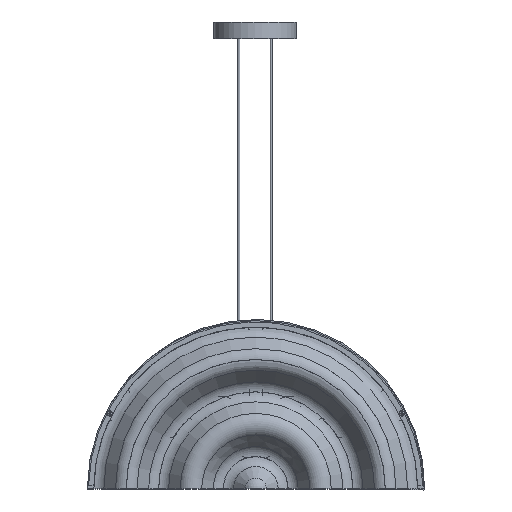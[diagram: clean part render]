
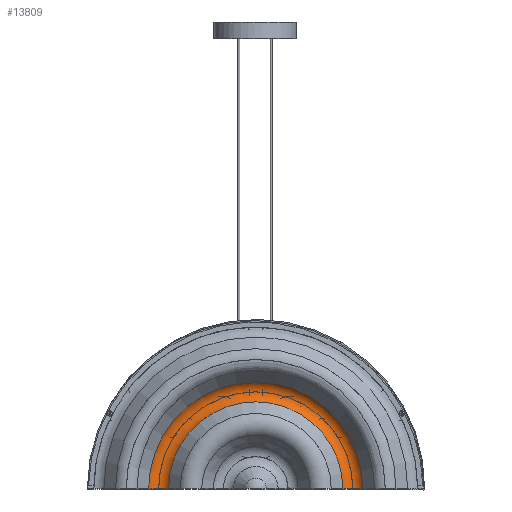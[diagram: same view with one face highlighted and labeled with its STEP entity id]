
A CAD part, top view. The second image highlights one B-rep face of the part: STEP entity #13809.
In plain terms, the highlighted toroidal (fillet/blend) face has major radius 150 mm and minor radius 19.277 mm.
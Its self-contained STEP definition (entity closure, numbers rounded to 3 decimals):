
#579=TOROIDAL_SURFACE('',#15373,150.,19.277);
#1716=FACE_OUTER_BOUND('',#2537,.T.);
#2537=EDGE_LOOP('',(#11701,#11702,#11703,#11704));
#3359=CIRCLE('',#15291,19.277);
#3365=CIRCLE('',#15297,19.277);
#3412=CIRCLE('',#15372,165.422);
#3413=CIRCLE('',#15374,134.578);
#6248=VERTEX_POINT('',#29667);
#6249=VERTEX_POINT('',#29669);
#6260=VERTEX_POINT('',#29691);
#6261=VERTEX_POINT('',#29693);
#8091=EDGE_CURVE('',#6248,#6249,#3359,.T.);
#8103=EDGE_CURVE('',#6260,#6261,#3365,.T.);
#8172=EDGE_CURVE('',#6261,#6248,#3412,.T.);
#8173=EDGE_CURVE('',#6260,#6249,#3413,.T.);
#11701=ORIENTED_EDGE('',*,*,#8091,.F.);
#11702=ORIENTED_EDGE('',*,*,#8172,.F.);
#11703=ORIENTED_EDGE('',*,*,#8103,.F.);
#11704=ORIENTED_EDGE('',*,*,#8173,.T.);
#13809=ADVANCED_FACE('',(#1716),#579,.F.);
#15291=AXIS2_PLACEMENT_3D('',#29670,#18525,#18526);
#15297=AXIS2_PLACEMENT_3D('',#29694,#18543,#18544);
#15372=AXIS2_PLACEMENT_3D('',#29831,#18715,#18716);
#15373=AXIS2_PLACEMENT_3D('',#29832,#18717,#18718);
#15374=AXIS2_PLACEMENT_3D('',#29833,#18719,#18720);
#18525=DIRECTION('center_axis',(0.,0.,-1.));
#18526=DIRECTION('ref_axis',(-1.,0.,0.));
#18543=DIRECTION('center_axis',(0.,0.,-1.));
#18544=DIRECTION('ref_axis',(1.,0.,0.));
#18715=DIRECTION('center_axis',(0.,1.,0.));
#18716=DIRECTION('ref_axis',(1.,0.,0.));
#18717=DIRECTION('center_axis',(0.,-1.,0.));
#18718=DIRECTION('ref_axis',(0.,0.,-1.));
#18719=DIRECTION('center_axis',(0.,1.,0.));
#18720=DIRECTION('ref_axis',(1.,0.,0.));
#29667=CARTESIAN_POINT('',(-84.422,-164.886,0.));
#29669=CARTESIAN_POINT('',(-53.579,-164.886,0.));
#29670=CARTESIAN_POINT('Origin',(-69.,-176.452,0.));
#29691=CARTESIAN_POINT('',(215.578,-164.886,0.));
#29693=CARTESIAN_POINT('',(246.421,-164.886,0.));
#29694=CARTESIAN_POINT('Origin',(231.,-176.452,0.));
#29831=CARTESIAN_POINT('Origin',(81.,-164.886,0.));
#29832=CARTESIAN_POINT('Origin',(81.,-176.452,0.));
#29833=CARTESIAN_POINT('Origin',(81.,-164.886,0.));
